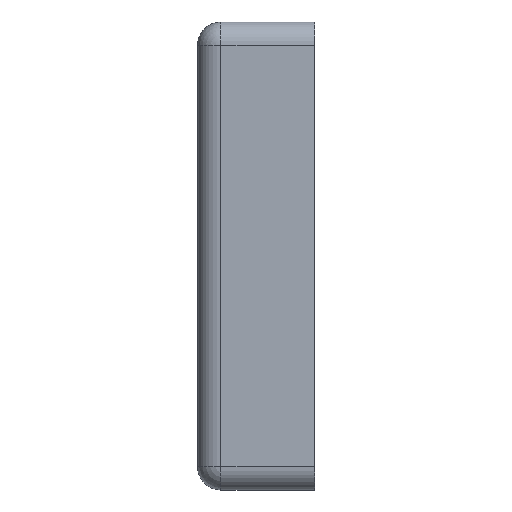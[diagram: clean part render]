
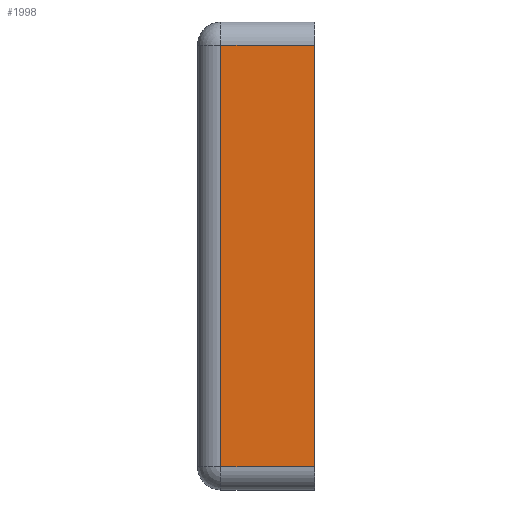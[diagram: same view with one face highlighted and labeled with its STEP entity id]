
A CAD part, left-side view. The second image highlights one B-rep face of the part: STEP entity #1998.
In plain terms, the highlighted planar face has unit normal (-1, 0, 0).
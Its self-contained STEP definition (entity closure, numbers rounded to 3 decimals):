
#12 = VECTOR ( 'NONE', #2286, 1000. ) ;
#14 = VECTOR ( 'NONE', #2561, 1000. ) ;
#549 = ORIENTED_EDGE ( 'NONE', *, *, #2418, .F. ) ;
#656 = CARTESIAN_POINT ( 'NONE',  ( -30., 15., 27. ) ) ;
#762 = CARTESIAN_POINT ( 'NONE',  ( -30., 0., -27. ) ) ;
#939 = DIRECTION ( 'NONE',  ( 0., 0., -1. ) ) ;
#991 = EDGE_CURVE ( 'NONE', #2175, #3918, #2595, .T. ) ;
#1382 = EDGE_LOOP ( 'NONE', ( #549, #3960, #2354, #2407 ) ) ;
#1514 = DIRECTION ( 'NONE',  ( 0., 0., -1. ) ) ;
#1998 = ADVANCED_FACE ( 'NONE', ( #2445 ), #3193, .F. ) ;
#2131 = LINE ( 'NONE', #656, #2644 ) ;
#2175 = VERTEX_POINT ( 'NONE', #762 ) ;
#2286 = DIRECTION ( 'NONE',  ( 0., 0., 1. ) ) ;
#2311 = CARTESIAN_POINT ( 'NONE',  ( -30., 12., -27. ) ) ;
#2354 = ORIENTED_EDGE ( 'NONE', *, *, #2676, .T. ) ;
#2407 = ORIENTED_EDGE ( 'NONE', *, *, #991, .T. ) ;
#2418 = EDGE_CURVE ( 'NONE', #3742, #3918, #2131, .T. ) ;
#2445 = FACE_OUTER_BOUND ( 'NONE', #1382, .T. ) ;
#2561 = DIRECTION ( 'NONE',  ( 0., -1., 0. ) ) ;
#2595 = LINE ( 'NONE', #4424, #12 ) ;
#2644 = VECTOR ( 'NONE', #4671, 1000. ) ;
#2649 = CARTESIAN_POINT ( 'NONE',  ( -30., 0., 27. ) ) ;
#2676 = EDGE_CURVE ( 'NONE', #4267, #2175, #3761, .T. ) ;
#3032 = LINE ( 'NONE', #2311, #4225 ) ;
#3193 = PLANE ( 'NONE',  #4593 ) ;
#3638 = DIRECTION ( 'NONE',  ( 1., 0., 0. ) ) ;
#3742 = VERTEX_POINT ( 'NONE', #4527 ) ;
#3761 = LINE ( 'NONE', #4130, #14 ) ;
#3918 = VERTEX_POINT ( 'NONE', #2649 ) ;
#3956 = EDGE_CURVE ( 'NONE', #3742, #4267, #3032, .T. ) ;
#3960 = ORIENTED_EDGE ( 'NONE', *, *, #3956, .T. ) ;
#4130 = CARTESIAN_POINT ( 'NONE',  ( -30., 15., -27. ) ) ;
#4225 = VECTOR ( 'NONE', #1514, 1000. ) ;
#4267 = VERTEX_POINT ( 'NONE', #4569 ) ;
#4424 = CARTESIAN_POINT ( 'NONE',  ( -30., 0., -27. ) ) ;
#4527 = CARTESIAN_POINT ( 'NONE',  ( -30., 12., 27. ) ) ;
#4569 = CARTESIAN_POINT ( 'NONE',  ( -30., 12., -27. ) ) ;
#4593 = AXIS2_PLACEMENT_3D ( 'NONE', #4691, #3638, #939 ) ;
#4671 = DIRECTION ( 'NONE',  ( 0., -1., 0. ) ) ;
#4691 = CARTESIAN_POINT ( 'NONE',  ( -30., 15., -27. ) ) ;
